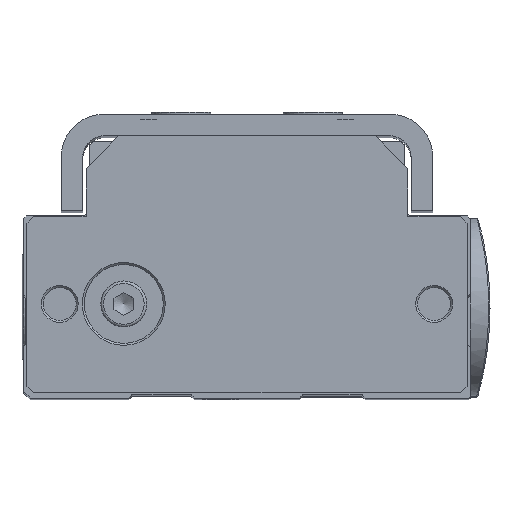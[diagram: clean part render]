
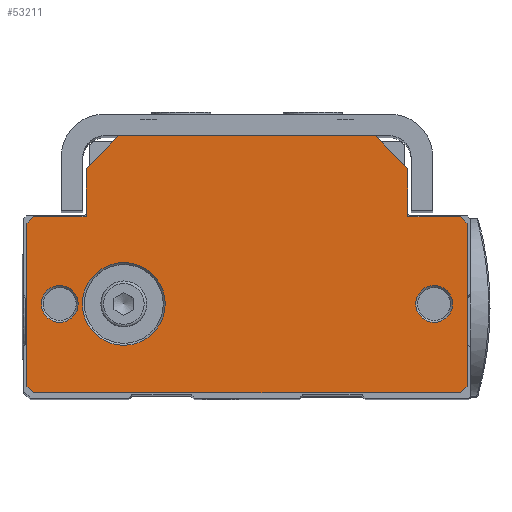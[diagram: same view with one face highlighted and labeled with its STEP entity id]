
A CAD part, top view. The second image highlights one B-rep face of the part: STEP entity #53211.
In plain terms, the highlighted planar face has unit normal (0, 0, 1).
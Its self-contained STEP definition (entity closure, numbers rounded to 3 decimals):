
#4812=FACE_BOUND('',#13267,.T.);
#4813=FACE_BOUND('',#13268,.T.);
#4814=FACE_BOUND('',#13269,.T.);
#7334=CIRCLE('',#58867,2.8);
#7335=CIRCLE('',#58868,2.8);
#7336=CIRCLE('',#58869,2.8);
#7337=CIRCLE('',#58870,2.8);
#7338=CIRCLE('',#58871,6.3);
#7339=CIRCLE('',#58872,6.3);
#10146=FACE_OUTER_BOUND('',#13266,.T.);
#13266=EDGE_LOOP('',(#48771,#48772,#48773,#48774,#48775,#48776,#48777,#48778,
#48779,#48780,#48781,#48782,#48783,#48784));
#13267=EDGE_LOOP('',(#48785,#48786));
#13268=EDGE_LOOP('',(#48787,#48788));
#13269=EDGE_LOOP('',(#48789,#48790));
#17099=LINE('',#106071,#20943);
#17101=LINE('',#106075,#20945);
#17104=LINE('',#106081,#20948);
#17105=LINE('',#106083,#20949);
#17106=LINE('',#106085,#20950);
#17107=LINE('',#106087,#20951);
#17108=LINE('',#106089,#20952);
#17109=LINE('',#106091,#20953);
#17110=LINE('',#106093,#20954);
#17111=LINE('',#106095,#20955);
#17112=LINE('',#106097,#20956);
#17113=LINE('',#106099,#20957);
#17114=LINE('',#106101,#20958);
#17115=LINE('',#106102,#20959);
#20943=VECTOR('',#72970,10.);
#20945=VECTOR('',#72974,1000.);
#20948=VECTOR('',#72979,1000.);
#20949=VECTOR('',#72980,10.);
#20950=VECTOR('',#72981,1000.);
#20951=VECTOR('',#72982,1000.);
#20952=VECTOR('',#72983,1000.);
#20953=VECTOR('',#72984,1000.);
#20954=VECTOR('',#72985,1000.);
#20955=VECTOR('',#72986,1000.);
#20956=VECTOR('',#72987,1000.);
#20957=VECTOR('',#72988,1000.);
#20958=VECTOR('',#72989,1000.);
#20959=VECTOR('',#72990,1000.);
#26004=VERTEX_POINT('',#106068);
#26005=VERTEX_POINT('',#106070);
#26006=VERTEX_POINT('',#106074);
#26008=VERTEX_POINT('',#106080);
#26009=VERTEX_POINT('',#106082);
#26010=VERTEX_POINT('',#106084);
#26011=VERTEX_POINT('',#106086);
#26012=VERTEX_POINT('',#106088);
#26013=VERTEX_POINT('',#106090);
#26014=VERTEX_POINT('',#106092);
#26015=VERTEX_POINT('',#106094);
#26016=VERTEX_POINT('',#106096);
#26017=VERTEX_POINT('',#106098);
#26018=VERTEX_POINT('',#106100);
#26019=VERTEX_POINT('',#106103);
#26020=VERTEX_POINT('',#106104);
#26021=VERTEX_POINT('',#106107);
#26022=VERTEX_POINT('',#106108);
#26023=VERTEX_POINT('',#106111);
#26024=VERTEX_POINT('',#106112);
#33618=EDGE_CURVE('',#26004,#26005,#17099,.T.);
#33620=EDGE_CURVE('',#26005,#26006,#17101,.T.);
#33623=EDGE_CURVE('',#26004,#26008,#17104,.T.);
#33624=EDGE_CURVE('',#26009,#26008,#17105,.T.);
#33625=EDGE_CURVE('',#26010,#26009,#17106,.T.);
#33626=EDGE_CURVE('',#26011,#26010,#17107,.T.);
#33627=EDGE_CURVE('',#26011,#26012,#17108,.T.);
#33628=EDGE_CURVE('',#26012,#26013,#17109,.T.);
#33629=EDGE_CURVE('',#26013,#26014,#17110,.T.);
#33630=EDGE_CURVE('',#26015,#26014,#17111,.T.);
#33631=EDGE_CURVE('',#26015,#26016,#17112,.T.);
#33632=EDGE_CURVE('',#26016,#26017,#17113,.T.);
#33633=EDGE_CURVE('',#26017,#26018,#17114,.T.);
#33634=EDGE_CURVE('',#26006,#26018,#17115,.T.);
#33635=EDGE_CURVE('',#26019,#26020,#7334,.T.);
#33636=EDGE_CURVE('',#26020,#26019,#7335,.T.);
#33637=EDGE_CURVE('',#26021,#26022,#7336,.T.);
#33638=EDGE_CURVE('',#26022,#26021,#7337,.T.);
#33639=EDGE_CURVE('',#26023,#26024,#7338,.T.);
#33640=EDGE_CURVE('',#26024,#26023,#7339,.T.);
#48771=ORIENTED_EDGE('',*,*,#33618,.F.);
#48772=ORIENTED_EDGE('',*,*,#33623,.T.);
#48773=ORIENTED_EDGE('',*,*,#33624,.F.);
#48774=ORIENTED_EDGE('',*,*,#33625,.F.);
#48775=ORIENTED_EDGE('',*,*,#33626,.F.);
#48776=ORIENTED_EDGE('',*,*,#33627,.T.);
#48777=ORIENTED_EDGE('',*,*,#33628,.T.);
#48778=ORIENTED_EDGE('',*,*,#33629,.T.);
#48779=ORIENTED_EDGE('',*,*,#33630,.F.);
#48780=ORIENTED_EDGE('',*,*,#33631,.T.);
#48781=ORIENTED_EDGE('',*,*,#33632,.T.);
#48782=ORIENTED_EDGE('',*,*,#33633,.T.);
#48783=ORIENTED_EDGE('',*,*,#33634,.F.);
#48784=ORIENTED_EDGE('',*,*,#33620,.F.);
#48785=ORIENTED_EDGE('',*,*,#33635,.T.);
#48786=ORIENTED_EDGE('',*,*,#33636,.T.);
#48787=ORIENTED_EDGE('',*,*,#33637,.T.);
#48788=ORIENTED_EDGE('',*,*,#33638,.T.);
#48789=ORIENTED_EDGE('',*,*,#33639,.T.);
#48790=ORIENTED_EDGE('',*,*,#33640,.T.);
#50438=PLANE('',#58866);
#53211=ADVANCED_FACE('',(#10146,#4812,#4813,#4814),#50438,.T.);
#58866=AXIS2_PLACEMENT_3D('',#106079,#72977,#72978);
#58867=AXIS2_PLACEMENT_3D('',#106105,#72991,#72992);
#58868=AXIS2_PLACEMENT_3D('',#106106,#72993,#72994);
#58869=AXIS2_PLACEMENT_3D('',#106109,#72995,#72996);
#58870=AXIS2_PLACEMENT_3D('',#106110,#72997,#72998);
#58871=AXIS2_PLACEMENT_3D('',#106113,#72999,#73000);
#58872=AXIS2_PLACEMENT_3D('',#106114,#73001,#73002);
#72970=DIRECTION('',(0.707,-0.707,0.));
#72974=DIRECTION('',(0.,-1.,0.));
#72977=DIRECTION('center_axis',(0.,0.,1.));
#72978=DIRECTION('ref_axis',(1.,0.,0.));
#72979=DIRECTION('',(-1.,0.,0.));
#72980=DIRECTION('',(0.707,0.707,0.));
#72981=DIRECTION('',(0.,1.,0.));
#72982=DIRECTION('',(1.,0.,0.));
#72983=DIRECTION('',(-0.707,-0.707,0.));
#72984=DIRECTION('',(0.,-1.,0.));
#72985=DIRECTION('',(0.707,-0.707,0.));
#72986=DIRECTION('',(-1.,0.,0.));
#72987=DIRECTION('',(0.707,0.707,0.));
#72988=DIRECTION('',(0.,1.,0.));
#72989=DIRECTION('',(-0.707,0.707,0.));
#72990=DIRECTION('',(1.,0.,0.));
#72991=DIRECTION('center_axis',(0.,0.,-1.));
#72992=DIRECTION('ref_axis',(1.,0.,0.));
#72993=DIRECTION('center_axis',(0.,0.,-1.));
#72994=DIRECTION('ref_axis',(1.,0.,0.));
#72995=DIRECTION('center_axis',(0.,0.,-1.));
#72996=DIRECTION('ref_axis',(1.,0.,0.));
#72997=DIRECTION('center_axis',(0.,0.,-1.));
#72998=DIRECTION('ref_axis',(1.,0.,0.));
#72999=DIRECTION('center_axis',(0.,0.,-1.));
#73000=DIRECTION('ref_axis',(1.,0.,0.));
#73001=DIRECTION('center_axis',(0.,0.,-1.));
#73002=DIRECTION('ref_axis',(1.,0.,0.));
#106068=CARTESIAN_POINT('',(19.5,19.575,0.));
#106070=CARTESIAN_POINT('',(24.5,14.575,0.));
#106071=CARTESIAN_POINT('',(20.769,18.306,0.));
#106074=CARTESIAN_POINT('',(24.5,7.275,0.));
#106075=CARTESIAN_POINT('',(24.5,20.025,0.));
#106079=CARTESIAN_POINT('Origin',(0.,0.,0.));
#106080=CARTESIAN_POINT('',(-19.5,19.575,0.));
#106081=CARTESIAN_POINT('',(-33.5,19.575,0.));
#106082=CARTESIAN_POINT('',(-24.5,14.575,0.));
#106083=CARTESIAN_POINT('',(-20.769,18.306,0.));
#106084=CARTESIAN_POINT('',(-24.5,7.275,0.));
#106085=CARTESIAN_POINT('',(-24.5,20.025,0.));
#106086=CARTESIAN_POINT('',(-32.5,7.275,0.));
#106087=CARTESIAN_POINT('',(-33.5,7.275,0.));
#106088=CARTESIAN_POINT('',(-33.5,6.275,0.));
#106089=CARTESIAN_POINT('',(-19.888,19.888,0.));
#106090=CARTESIAN_POINT('',(-33.5,-18.525,0.));
#106091=CARTESIAN_POINT('',(-33.5,20.025,0.));
#106092=CARTESIAN_POINT('',(-32.5,-19.525,0.));
#106093=CARTESIAN_POINT('',(-26.013,-26.012,0.));
#106094=CARTESIAN_POINT('',(32.5,-19.525,0.));
#106095=CARTESIAN_POINT('',(33.5,-19.525,0.));
#106096=CARTESIAN_POINT('',(33.5,-18.525,0.));
#106097=CARTESIAN_POINT('',(26.013,-26.012,0.));
#106098=CARTESIAN_POINT('',(33.5,6.275,0.));
#106099=CARTESIAN_POINT('',(33.5,20.025,0.));
#106100=CARTESIAN_POINT('',(32.5,7.275,0.));
#106101=CARTESIAN_POINT('',(19.888,19.888,0.));
#106102=CARTESIAN_POINT('',(33.5,7.275,0.));
#106103=CARTESIAN_POINT('',(31.3,-6.025,0.));
#106104=CARTESIAN_POINT('',(25.7,-6.025,0.));
#106105=CARTESIAN_POINT('Origin',(28.5,-6.025,0.));
#106106=CARTESIAN_POINT('Origin',(28.5,-6.025,0.));
#106107=CARTESIAN_POINT('',(-25.7,-6.025,0.));
#106108=CARTESIAN_POINT('',(-31.3,-6.025,0.));
#106109=CARTESIAN_POINT('Origin',(-28.5,-6.025,0.));
#106110=CARTESIAN_POINT('Origin',(-28.5,-6.025,0.));
#106111=CARTESIAN_POINT('',(-12.45,-6.025,0.));
#106112=CARTESIAN_POINT('',(-25.05,-6.025,0.));
#106113=CARTESIAN_POINT('Origin',(-18.75,-6.025,0.));
#106114=CARTESIAN_POINT('Origin',(-18.75,-6.025,0.));
